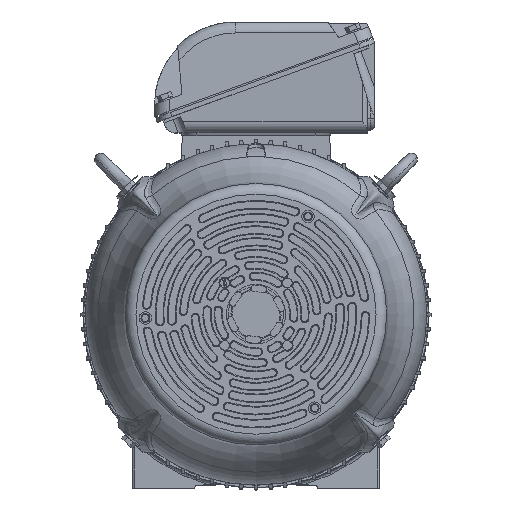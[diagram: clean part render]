
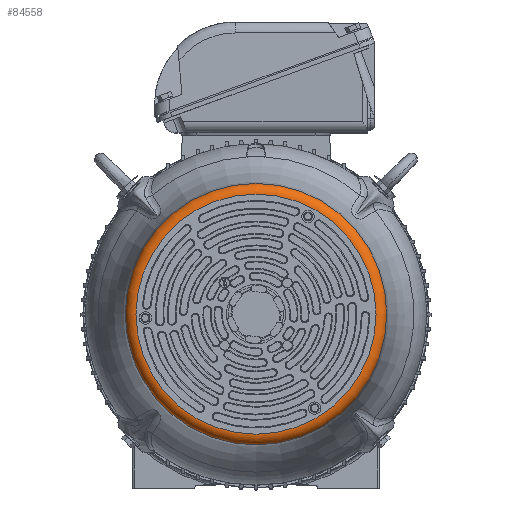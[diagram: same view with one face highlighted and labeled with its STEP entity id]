
A CAD part, top view. The second image highlights one B-rep face of the part: STEP entity #84558.
In plain terms, the highlighted toroidal (fillet/blend) face has major radius 156 mm and minor radius 14 mm.
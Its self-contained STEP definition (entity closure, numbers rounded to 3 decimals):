
#10113=TOROIDAL_SURFACE('',#90941,156.,14.);
#14663=FACE_OUTER_BOUND('',#19580,.T.);
#19580=EDGE_LOOP('',(#67829,#67830,#67831,#67832,#67833,#67834));
#34178=CIRCLE('',#90942,170.);
#34179=CIRCLE('',#90943,170.);
#34180=CIRCLE('',#90944,14.);
#34181=CIRCLE('',#90945,156.);
#34182=CIRCLE('',#90946,156.);
#40443=VERTEX_POINT('',#142911);
#40444=VERTEX_POINT('',#142912);
#40445=VERTEX_POINT('',#142915);
#40446=VERTEX_POINT('',#142917);
#50337=EDGE_CURVE('',#40443,#40444,#34178,.T.);
#50338=EDGE_CURVE('',#40444,#40443,#34179,.T.);
#50339=EDGE_CURVE('',#40444,#40445,#34180,.T.);
#50340=EDGE_CURVE('',#40445,#40446,#34181,.T.);
#50341=EDGE_CURVE('',#40446,#40445,#34182,.T.);
#67829=ORIENTED_EDGE('',*,*,#50337,.F.);
#67830=ORIENTED_EDGE('',*,*,#50338,.F.);
#67831=ORIENTED_EDGE('',*,*,#50339,.T.);
#67832=ORIENTED_EDGE('',*,*,#50340,.T.);
#67833=ORIENTED_EDGE('',*,*,#50341,.T.);
#67834=ORIENTED_EDGE('',*,*,#50339,.F.);
#84558=ADVANCED_FACE('',(#14663),#10113,.T.);
#90941=AXIS2_PLACEMENT_3D('',#142910,#105296,#105297);
#90942=AXIS2_PLACEMENT_3D('',#142913,#105298,#105299);
#90943=AXIS2_PLACEMENT_3D('',#142914,#105300,#105301);
#90944=AXIS2_PLACEMENT_3D('',#142916,#105302,#105303);
#90945=AXIS2_PLACEMENT_3D('',#142918,#105304,#105305);
#90946=AXIS2_PLACEMENT_3D('',#142919,#105306,#105307);
#105296=DIRECTION('center_axis',(0.,0.,
-1.));
#105297=DIRECTION('ref_axis',(0.,1.,0.));
#105298=DIRECTION('center_axis',(0.,0.,
-1.));
#105299=DIRECTION('ref_axis',(0.,1.,0.));
#105300=DIRECTION('center_axis',(0.,0.,
-1.));
#105301=DIRECTION('ref_axis',(0.,1.,0.));
#105302=DIRECTION('center_axis',(-1.,0.,0.));
#105303=DIRECTION('ref_axis',(0.,-1.,0.));
#105304=DIRECTION('center_axis',(0.,0.,
-1.));
#105305=DIRECTION('ref_axis',(0.,1.,0.));
#105306=DIRECTION('center_axis',(0.,0.,
-1.));
#105307=DIRECTION('ref_axis',(0.,1.,0.));
#142910=CARTESIAN_POINT('Origin',(0.,0.,
882.764));
#142911=CARTESIAN_POINT('',(0.,170.,882.764));
#142912=CARTESIAN_POINT('',(0.,-170.,882.764));
#142913=CARTESIAN_POINT('Origin',(0.,0.,
882.764));
#142914=CARTESIAN_POINT('Origin',(0.,0.,
882.764));
#142915=CARTESIAN_POINT('',(0.,-156.,896.764));
#142916=CARTESIAN_POINT('Origin',(0.,-156.,
882.764));
#142917=CARTESIAN_POINT('',(0.,156.,896.764));
#142918=CARTESIAN_POINT('Origin',(0.,0.,
896.764));
#142919=CARTESIAN_POINT('Origin',(0.,0.,
896.764));
